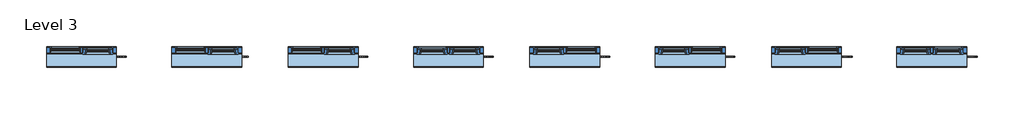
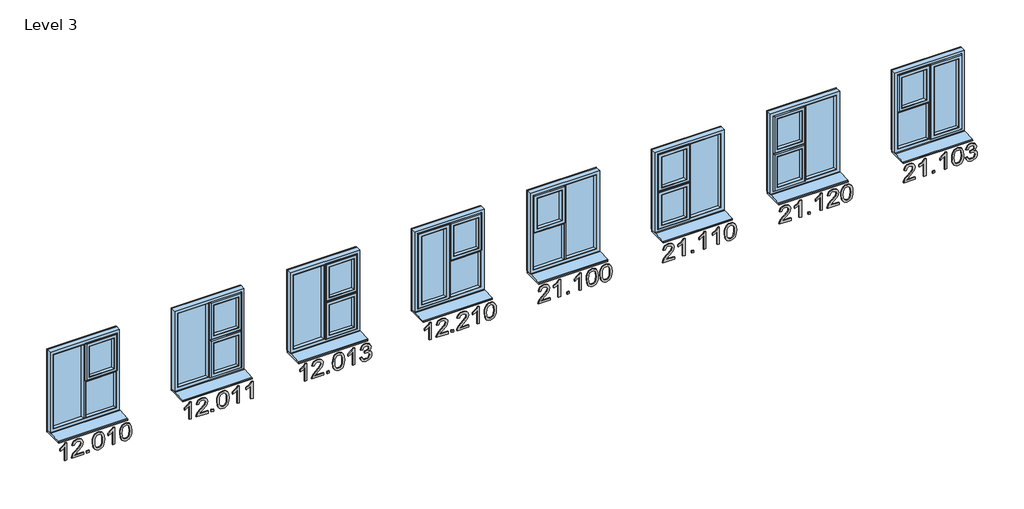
# One storey: 8 proxies, 8 windows.
"""IFC4 building model written with IfcOpenShell, lengths in millimetres."""

from ifc_helpers import new_model, si_unit, frame, origin, place, context, project, spatial, polyline, outline, extrude, transform, mapped, element, save
from components import standard_076794af, standard_4b04ff4b, standard_4289d727, standard_a808f366, standard_dbfec9ef, standard_0d5434f7

model = new_model("IFC4")

# Units and contexts
model_context = context("Model", 3, world=origin())
ifc_project = project(units=[si_unit("LENGTHUNIT", "METRE", prefix="MILLI")], contexts=[model_context])

# Site, building, storey
site = spatial("IfcSite", under=ifc_project)
building = spatial("IfcBuilding", under=site)
storey = spatial("IfcBuildingStorey", under=building, Name="Level 3", Elevation=6000.0)

# Proxies
placement = place(None, origin())
element("IfcBuildingElementProxy", 1, Name="200mm Arial", ObjectType="200mm Arial", at=placement, inside=storey, context=model_context, shape_type="SweptSolid", body=[
    extrude(outline(polyline([(6285.8207785, -163207.777074), (6486.7333988, -163207.777074), (6486.7333988, -163223.9638818), (6473.5754861, -163232.8359693), (6460.0006405, -163246.3065817), (6436.5052437, -163283.1193066), (6412.7645923, -163283.1193066), (6425.4442584, -163256.6808539), (6442.3913556, -163232.8911516), (6285.8207785, -163232.8911516), (6285.8207785, -163207.777074)])), frame((0.0, 24202.6264647, 0.0), z_axis=(0.0, 1.0, 0.0), x_axis=(0.0, 0.0, 1.0)), (0.0, 0.0, 1.0), 10.0),
    extrude(outline(polyline([(6310.934856, -163019.4214925), (6310.934856, -163118.0629181), (6323.712624, -163106.7321527), (6347.8702083, -163077.8411533), (6382.2794376, -163041.8622942), (6406.9030058, -163027.0243871), (6430.7172337, -163022.5607522), (6452.6184751, -163026.6994246), (6470.6446929, -163039.115442), (6482.7112223, -163058.6315818), (6486.7333988, -163084.0706218), (6483.1158925, -163109.3257208), (6472.2633736, -163128.8786488), (6454.5191987, -163142.0426929), (6430.2267243, -163148.1311399), (6427.0874646, -163123.0170623), (6441.5207016, -163120.3008669), (6452.4467968, -163112.4465863), (6459.3261901, -163100.2758237), (6461.6193212, -163084.610182), (6459.2710078, -163069.6925671), (6452.2260676, -163057.9019492), (6441.7720876, -163050.2316096), (6429.1966547, -163047.6748297), (6415.168088, -163050.3848938), (6400.7471138, -163058.5150859), (6358.9066682, -163101.8761104), (6329.7949396, -163133.3177582), (6303.1357577, -163148.5725983), (6285.8207785, -163151.2703996), (6285.8207785, -163019.4214925), (6310.934856, -163019.4214925)])), frame((0.0, 24202.6264647, 0.0), z_axis=(0.0, 1.0, 0.0), x_axis=(0.0, 0.0, 1.0)), (0.0, 0.0, 1.0), 10.0),
    extrude(outline(polyline([(-162956.6362987, 24202.6264647), (-162981.7503762, 24202.6264647), (-162981.7503762, 24212.6264647), (-162956.6362987, 24212.6264647), (-162956.6362987, 24202.6264647)])), frame((0.0, 0.0, 6285.8207785), z_axis=(0.0, 0.0, 1.0), x_axis=(1.0, 0.0, 0.0)), (0.0, 0.0, 1.0), 25.1140775),
    extrude(outline(polyline([(6384.6584079, -162915.8259227), (6335.7914162, -162910.8227275), (6316.9405296, -162904.5687336), (6301.8113825, -162895.8131421), (6287.4639847, -162875.9965653), (6282.6815188, -162849.9014691), (6285.4345024, -162829.6005144), (6293.6934532, -162813.1377951), (6307.5503417, -162800.4029467), (6327.0971383, -162791.2856046), (6352.6833311, -162785.8041628), (6384.6584079, -162783.9770156), (6431.8699306, -162788.5387523), (6461.5947958, -162800.3109762), (6472.3553441, -162808.9807285), (6480.2586757, -162820.5690114), (6485.114718, -162834.4258999), (6486.7333988, -162849.9014691), (6483.9988093, -162870.0920593), (6475.7950408, -162886.5179904), (6461.9933346, -162899.2712329), (6442.464932, -162908.4437573), (6416.8174256, -162913.9803813), (6384.6584079, -162915.8259227)]), holes=[polyline([(6384.7074588, -162890.7118451), (6423.7029503, -162887.6706873), (6448.1793657, -162878.5472138), (6458.2593324, -162865.9165986), (6461.6193212, -162850.1957747), (6457.8056112, -162833.592034), (6446.3644812, -162820.4709095), (6423.3228055, -162811.9360472), (6384.7074588, -162809.0910931), (6345.2643775, -162812.0341491), (6322.3882488, -162820.863317), (6311.4437594, -162834.0089669), (6307.7955963, -162849.9014691), (6311.4314967, -162865.7939713), (6322.3391979, -162878.9396213), (6345.2030639, -162887.7687892), (6384.7074588, -162890.7118451)])]), frame((0.0, 24202.6264647, 0.0), z_axis=(0.0, 1.0, 0.0), x_axis=(0.0, 0.0, 1.0)), (0.0, 0.0, 1.0), 10.0),
    extrude(outline(polyline([(6285.8207785, -162667.824407), (6486.7333988, -162667.824407), (6486.7333988, -162684.0112148), (6473.5754861, -162692.8833022), (6460.0006405, -162706.3539146), (6436.5052437, -162743.1666396), (6412.7645923, -162743.1666396), (6425.4442584, -162716.7281869), (6442.3913556, -162692.9384845), (6285.8207785, -162692.9384845), (6285.8207785, -162667.824407)])), frame((0.0, 24202.6264647, 0.0), z_axis=(0.0, 1.0, 0.0), x_axis=(0.0, 0.0, 1.0)), (0.0, 0.0, 1.0), 10.0),
    extrude(outline(polyline([(6384.6584079, -162608.1784728), (6335.7914162, -162603.1752777), (6316.9405296, -162596.9212838), (6301.8113825, -162588.1656923), (6287.4639847, -162568.3491155), (6282.6815188, -162542.2540193), (6285.4345024, -162521.9530645), (6293.6934532, -162505.4903452), (6307.5503417, -162492.7554968), (6327.0971383, -162483.6381547), (6352.6833311, -162478.156713), (6384.6584079, -162476.3295658), (6431.8699306, -162480.8913025), (6461.5947958, -162492.6635263), (6472.3553441, -162501.3332787), (6480.2586757, -162512.9215615), (6485.114718, -162526.77845), (6486.7333988, -162542.2540193), (6483.9988093, -162562.4446095), (6475.7950408, -162578.8705405), (6461.9933346, -162591.623783), (6442.464932, -162600.7963075), (6416.8174256, -162606.3329315), (6384.6584079, -162608.1784728)]), holes=[polyline([(6384.7074588, -162583.0643953), (6423.7029503, -162580.0232375), (6448.1793657, -162570.899764), (6458.2593324, -162558.2691488), (6461.6193212, -162542.5483249), (6457.8056112, -162525.9445842), (6446.3644812, -162512.8234597), (6423.3228055, -162504.2885974), (6384.7074588, -162501.4436433), (6345.2643775, -162504.3866993), (6322.3882488, -162513.2158671), (6311.4437594, -162526.3615171), (6307.7955963, -162542.2540193), (6311.4314967, -162558.1465215), (6322.3391979, -162571.2921714), (6345.2030639, -162580.1213393), (6384.7074588, -162583.0643953)])]), frame((0.0, 24202.6264647, 0.0), z_axis=(0.0, 1.0, 0.0), x_axis=(0.0, 0.0, 1.0)), (0.0, 0.0, 1.0), 10.0),
])
element("IfcBuildingElementProxy", 2, Name="200mm Arial", ObjectType="200mm Arial", at=placement, inside=storey, context=model_context, shape_type="SweptSolid", body=[
    extrude(outline(polyline([(6285.8207785, -161807.777074), (6486.7333988, -161807.777074), (6486.7333988, -161823.9638818), (6473.5754861, -161832.8359693), (6460.0006405, -161846.3065817), (6436.5052437, -161883.1193066), (6412.7645923, -161883.1193066), (6425.4442584, -161856.6808539), (6442.3913556, -161832.8911516), (6285.8207785, -161832.8911516), (6285.8207785, -161807.777074)])), frame((0.0, 24202.6264647, 0.0), z_axis=(0.0, 1.0, 0.0), x_axis=(0.0, 0.0, 1.0)), (0.0, 0.0, 1.0), 10.0),
    extrude(outline(polyline([(6310.934856, -161619.4214925), (6310.934856, -161718.0629181), (6323.712624, -161706.7321527), (6347.8702083, -161677.8411533), (6382.2794376, -161641.8622942), (6406.9030058, -161627.0243871), (6430.7172337, -161622.5607522), (6452.6184751, -161626.6994246), (6470.6446929, -161639.115442), (6482.7112223, -161658.6315818), (6486.7333988, -161684.0706218), (6483.1158925, -161709.3257208), (6472.2633736, -161728.8786488), (6454.5191987, -161742.0426929), (6430.2267243, -161748.1311399), (6427.0874646, -161723.0170623), (6441.5207016, -161720.3008669), (6452.4467968, -161712.4465863), (6459.3261901, -161700.2758237), (6461.6193212, -161684.610182), (6459.2710078, -161669.6925671), (6452.2260676, -161657.9019492), (6441.7720876, -161650.2316096), (6429.1966547, -161647.6748297), (6415.168088, -161650.3848938), (6400.7471138, -161658.5150859), (6358.9066682, -161701.8761104), (6329.7949396, -161733.3177582), (6303.1357577, -161748.5725983), (6285.8207785, -161751.2703996), (6285.8207785, -161619.4214925), (6310.934856, -161619.4214925)])), frame((0.0, 24202.6264647, 0.0), z_axis=(0.0, 1.0, 0.0), x_axis=(0.0, 0.0, 1.0)), (0.0, 0.0, 1.0), 10.0),
    extrude(outline(polyline([(-161556.6362987, 24202.6264647), (-161581.7503762, 24202.6264647), (-161581.7503762, 24212.6264647), (-161556.6362987, 24212.6264647), (-161556.6362987, 24202.6264647)])), frame((0.0, 0.0, 6285.8207785), z_axis=(0.0, 0.0, 1.0), x_axis=(1.0, 0.0, 0.0)), (0.0, 0.0, 1.0), 25.1140775),
    extrude(outline(polyline([(6384.6584079, -161515.8259227), (6335.7914162, -161510.8227275), (6316.9405296, -161504.5687336), (6301.8113825, -161495.8131421), (6287.4639847, -161475.9965653), (6282.6815188, -161449.9014691), (6285.4345024, -161429.6005144), (6293.6934532, -161413.1377951), (6307.5503417, -161400.4029467), (6327.0971383, -161391.2856046), (6352.6833311, -161385.8041628), (6384.6584079, -161383.9770156), (6431.8699306, -161388.5387523), (6461.5947958, -161400.3109762), (6472.3553441, -161408.9807285), (6480.2586757, -161420.5690114), (6485.114718, -161434.4258999), (6486.7333988, -161449.9014691), (6483.9988093, -161470.0920593), (6475.7950408, -161486.5179904), (6461.9933346, -161499.2712329), (6442.464932, -161508.4437573), (6416.8174256, -161513.9803813), (6384.6584079, -161515.8259227)]), holes=[polyline([(6384.7074588, -161490.7118451), (6423.7029503, -161487.6706873), (6448.1793657, -161478.5472138), (6458.2593324, -161465.9165986), (6461.6193212, -161450.1957747), (6457.8056112, -161433.592034), (6446.3644812, -161420.4709095), (6423.3228055, -161411.9360472), (6384.7074588, -161409.0910931), (6345.2643775, -161412.0341491), (6322.3882488, -161420.863317), (6311.4437594, -161434.0089669), (6307.7955963, -161449.9014691), (6311.4314967, -161465.7939713), (6322.3391979, -161478.9396213), (6345.2030639, -161487.7687892), (6384.7074588, -161490.7118451)])]), frame((0.0, 24202.6264647, 0.0), z_axis=(0.0, 1.0, 0.0), x_axis=(0.0, 0.0, 1.0)), (0.0, 0.0, 1.0), 10.0),
    extrude(outline(polyline([(6285.8207785, -161267.824407), (6486.7333988, -161267.824407), (6486.7333988, -161284.0112148), (6473.5754861, -161292.8833022), (6460.0006405, -161306.3539146), (6436.5052437, -161343.1666396), (6412.7645923, -161343.1666396), (6425.4442584, -161316.7281869), (6442.3913556, -161292.9384845), (6285.8207785, -161292.9384845), (6285.8207785, -161267.824407)])), frame((0.0, 24202.6264647, 0.0), z_axis=(0.0, 1.0, 0.0), x_axis=(0.0, 0.0, 1.0)), (0.0, 0.0, 1.0), 10.0),
    extrude(outline(polyline([(6285.8207785, -161114.0006821), (6486.7333988, -161114.0006821), (6486.7333988, -161130.1874898), (6473.5754861, -161139.0595773), (6460.0006405, -161152.5301897), (6436.5052437, -161189.3429147), (6412.7645923, -161189.3429147), (6425.4442584, -161162.904462), (6442.3913556, -161139.1147596), (6285.8207785, -161139.1147596), (6285.8207785, -161114.0006821)])), frame((0.0, 24202.6264647, 0.0), z_axis=(0.0, 1.0, 0.0), x_axis=(0.0, 0.0, 1.0)), (0.0, 0.0, 1.0), 10.0),
])
element("IfcBuildingElementProxy", 3, Name="200mm Arial", ObjectType="200mm Arial", at=placement, inside=storey, context=model_context, shape_type="SweptSolid", body=[
    extrude(outline(polyline([(6285.8207785, -160507.777074), (6486.7333988, -160507.777074), (6486.7333988, -160523.9638818), (6473.5754861, -160532.8359693), (6460.0006405, -160546.3065817), (6436.5052437, -160583.1193066), (6412.7645923, -160583.1193066), (6425.4442584, -160556.6808539), (6442.3913556, -160532.8911516), (6285.8207785, -160532.8911516), (6285.8207785, -160507.777074)])), frame((0.0, 24202.6264647, 0.0), z_axis=(0.0, 1.0, 0.0), x_axis=(0.0, 0.0, 1.0)), (0.0, 0.0, 1.0), 10.0),
    extrude(outline(polyline([(6310.934856, -160319.4214925), (6310.934856, -160418.0629181), (6323.712624, -160406.7321527), (6347.8702083, -160377.8411533), (6382.2794376, -160341.8622942), (6406.9030058, -160327.0243871), (6430.7172337, -160322.5607522), (6452.6184751, -160326.6994246), (6470.6446929, -160339.115442), (6482.7112223, -160358.6315818), (6486.7333988, -160384.0706218), (6483.1158925, -160409.3257208), (6472.2633736, -160428.8786488), (6454.5191987, -160442.0426929), (6430.2267243, -160448.1311399), (6427.0874646, -160423.0170623), (6441.5207016, -160420.3008669), (6452.4467968, -160412.4465863), (6459.3261901, -160400.2758237), (6461.6193212, -160384.610182), (6459.2710078, -160369.6925671), (6452.2260676, -160357.9019492), (6441.7720876, -160350.2316096), (6429.1966547, -160347.6748297), (6415.168088, -160350.3848938), (6400.7471138, -160358.5150859), (6358.9066682, -160401.8761104), (6329.7949396, -160433.3177582), (6303.1357577, -160448.5725983), (6285.8207785, -160451.2703996), (6285.8207785, -160319.4214925), (6310.934856, -160319.4214925)])), frame((0.0, 24202.6264647, 0.0), z_axis=(0.0, 1.0, 0.0), x_axis=(0.0, 0.0, 1.0)), (0.0, 0.0, 1.0), 10.0),
    extrude(outline(polyline([(-160256.6362987, 24202.6264647), (-160281.7503762, 24202.6264647), (-160281.7503762, 24212.6264647), (-160256.6362987, 24212.6264647), (-160256.6362987, 24202.6264647)])), frame((0.0, 0.0, 6285.8207785), z_axis=(0.0, 0.0, 1.0), x_axis=(1.0, 0.0, 0.0)), (0.0, 0.0, 1.0), 25.1140775),
    extrude(outline(polyline([(6384.6584079, -160215.8259227), (6335.7914162, -160210.8227275), (6316.9405296, -160204.5687336), (6301.8113825, -160195.8131421), (6287.4639847, -160175.9965653), (6282.6815188, -160149.9014691), (6285.4345024, -160129.6005144), (6293.6934532, -160113.1377951), (6307.5503417, -160100.4029467), (6327.0971383, -160091.2856046), (6352.6833311, -160085.8041628), (6384.6584079, -160083.9770156), (6431.8699306, -160088.5387523), (6461.5947958, -160100.3109762), (6472.3553441, -160108.9807285), (6480.2586757, -160120.5690114), (6485.114718, -160134.4258999), (6486.7333988, -160149.9014691), (6483.9988093, -160170.0920593), (6475.7950408, -160186.5179904), (6461.9933346, -160199.2712329), (6442.464932, -160208.4437573), (6416.8174256, -160213.9803813), (6384.6584079, -160215.8259227)]), holes=[polyline([(6384.7074588, -160190.7118451), (6423.7029503, -160187.6706873), (6448.1793657, -160178.5472138), (6458.2593324, -160165.9165986), (6461.6193212, -160150.1957747), (6457.8056112, -160133.592034), (6446.3644812, -160120.4709095), (6423.3228055, -160111.9360472), (6384.7074588, -160109.0910931), (6345.2643775, -160112.0341491), (6322.3882488, -160120.863317), (6311.4437594, -160134.0089669), (6307.7955963, -160149.9014691), (6311.4314967, -160165.7939713), (6322.3391979, -160178.9396213), (6345.2030639, -160187.7687892), (6384.7074588, -160190.7118451)])]), frame((0.0, 24202.6264647, 0.0), z_axis=(0.0, 1.0, 0.0), x_axis=(0.0, 0.0, 1.0)), (0.0, 0.0, 1.0), 10.0),
    extrude(outline(polyline([(6285.8207785, -159967.824407), (6486.7333988, -159967.824407), (6486.7333988, -159984.0112148), (6473.5754861, -159992.8833022), (6460.0006405, -160006.3539146), (6436.5052437, -160043.1666396), (6412.7645923, -160043.1666396), (6425.4442584, -160016.7281869), (6442.3913556, -159992.9384845), (6285.8207785, -159992.9384845), (6285.8207785, -159967.824407)])), frame((0.0, 24202.6264647, 0.0), z_axis=(0.0, 1.0, 0.0), x_axis=(0.0, 0.0, 1.0)), (0.0, 0.0, 1.0), 10.0),
    extrude(outline(polyline([(6339.1881933, -159908.1784728), (6316.4898741, -159901.9612671), (6298.4268682, -159888.2147432), (6286.6178561, -159868.4472173), (6282.6815188, -159844.1670057), (6287.2923065, -159817.3238828), (6301.1246695, -159795.5575314), (6321.5789084, -159781.1365572), (6346.0553238, -159776.3295658), (6364.0324907, -159778.7330615), (6378.723245, -159785.9435486), (6389.5389757, -159797.5931451), (6395.8910714, -159813.313969), (6403.1383467, -159801.3455414), (6412.5193376, -159792.7125773), (6423.531272, -159787.4886529), (6435.6713779, -159785.7473448), (6448.7005318, -159787.5806234), (6461.0061846, -159793.0804593), (6471.6870252, -159802.0445172), (6479.8417427, -159814.2704622), (6485.0104848, -159828.7711442), (6486.7333988, -159844.5594131), (6483.2385198, -159866.48518), (6472.753883, -159884.4868723), (6455.9171503, -159897.644785), (6433.365984, -159905.0392131), (6430.2267243, -159879.9251356), (6443.9609855, -159875.4737635), (6453.771172, -159867.6133515), (6459.6572839, -159856.8466718), (6461.6193212, -159843.6764963), (6459.675678, -159830.5308464), (6453.8447484, -159820.0339468), (6445.0462374, -159813.1545535), (6434.1998499, -159810.8614224), (6421.1768272, -159814.0252075), (6412.0288283, -159823.516563), (6406.620963, -159836.9687813), (6404.8183412, -159852.0151549), (6405.1126468, -159856.0373314), (6379.9985693, -159858.8332345), (6382.7454215, -159841.2239497), (6380.1763789, -159825.4295494), (6372.4692511, -159812.6763069), (6360.8380487, -159804.2518092), (6346.4967822, -159801.4436433), (6331.389095, -159804.2763347), (6318.9301581, -159812.7744087), (6310.5792368, -159826.0672115), (6307.7955963, -159843.2840889), (6309.8189473, -159857.9564491), (6315.8890002, -159869.2075068), (6326.5453154, -159877.4419321), (6342.3274529, -159883.0643953), (6339.1881933, -159908.1784728)])), frame((0.0, 24202.6264647, 0.0), z_axis=(0.0, 1.0, 0.0), x_axis=(0.0, 0.0, 1.0)), (0.0, 0.0, 1.0), 10.0),
])
element("IfcBuildingElementProxy", 4, Name="200mm Arial", ObjectType="200mm Arial", at=placement, inside=storey, context=model_context, shape_type="SweptSolid", body=[
    extrude(outline(polyline([(6285.8207785, -159107.777074), (6486.7333988, -159107.777074), (6486.7333988, -159123.9638818), (6473.5754861, -159132.8359693), (6460.0006405, -159146.3065817), (6436.5052437, -159183.1193066), (6412.7645923, -159183.1193066), (6425.4442584, -159156.6808539), (6442.3913556, -159132.8911516), (6285.8207785, -159132.8911516), (6285.8207785, -159107.777074)])), frame((0.0, 24202.6264647, 0.0), z_axis=(0.0, 1.0, 0.0), x_axis=(0.0, 0.0, 1.0)), (0.0, 0.0, 1.0), 10.0),
    extrude(outline(polyline([(6310.934856, -158919.4214925), (6310.934856, -159018.0629181), (6323.712624, -159006.7321527), (6347.8702083, -158977.8411533), (6382.2794376, -158941.8622942), (6406.9030058, -158927.0243871), (6430.7172337, -158922.5607522), (6452.6184751, -158926.6994246), (6470.6446929, -158939.115442), (6482.7112223, -158958.6315818), (6486.7333988, -158984.0706218), (6483.1158925, -159009.3257208), (6472.2633736, -159028.8786488), (6454.5191987, -159042.0426929), (6430.2267243, -159048.1311399), (6427.0874646, -159023.0170623), (6441.5207016, -159020.3008669), (6452.4467968, -159012.4465863), (6459.3261901, -159000.2758237), (6461.6193212, -158984.610182), (6459.2710078, -158969.6925671), (6452.2260676, -158957.9019492), (6441.7720876, -158950.2316096), (6429.1966547, -158947.6748297), (6415.168088, -158950.3848938), (6400.7471138, -158958.5150859), (6358.9066682, -159001.8761104), (6329.7949396, -159033.3177582), (6303.1357577, -159048.5725983), (6285.8207785, -159051.2703996), (6285.8207785, -158919.4214925), (6310.934856, -158919.4214925)])), frame((0.0, 24202.6264647, 0.0), z_axis=(0.0, 1.0, 0.0), x_axis=(0.0, 0.0, 1.0)), (0.0, 0.0, 1.0), 10.0),
    extrude(outline(polyline([(-158856.6362987, 24202.6264647), (-158881.7503762, 24202.6264647), (-158881.7503762, 24212.6264647), (-158856.6362987, 24212.6264647), (-158856.6362987, 24202.6264647)])), frame((0.0, 0.0, 6285.8207785), z_axis=(0.0, 0.0, 1.0), x_axis=(1.0, 0.0, 0.0)), (0.0, 0.0, 1.0), 25.1140775),
    extrude(outline(polyline([(6310.934856, -158687.1162753), (6310.934856, -158785.7577009), (6323.712624, -158774.4269355), (6347.8702083, -158745.5359361), (6382.2794376, -158709.557077), (6406.9030058, -158694.7191698), (6430.7172337, -158690.255535), (6452.6184751, -158694.3942074), (6470.6446929, -158706.8102248), (6482.7112223, -158726.3263646), (6486.7333988, -158751.7654046), (6483.1158925, -158777.0205035), (6472.2633736, -158796.5734316), (6454.5191987, -158809.7374756), (6430.2267243, -158815.8259227), (6427.0874646, -158790.7118451), (6441.5207016, -158787.9956497), (6452.4467968, -158780.1413691), (6459.3261901, -158767.9706065), (6461.6193212, -158752.3049648), (6459.2710078, -158737.3873499), (6452.2260676, -158725.596732), (6441.7720876, -158717.9263924), (6429.1966547, -158715.3696125), (6415.168088, -158718.0796765), (6400.7471138, -158726.2098686), (6358.9066682, -158769.5708931), (6329.7949396, -158801.012541), (6303.1357577, -158816.2673811), (6285.8207785, -158818.9651824), (6285.8207785, -158687.1162753), (6310.934856, -158687.1162753)])), frame((0.0, 24202.6264647, 0.0), z_axis=(0.0, 1.0, 0.0), x_axis=(0.0, 0.0, 1.0)), (0.0, 0.0, 1.0), 10.0),
    extrude(outline(polyline([(6285.8207785, -158567.824407), (6486.7333988, -158567.824407), (6486.7333988, -158584.0112148), (6473.5754861, -158592.8833022), (6460.0006405, -158606.3539146), (6436.5052437, -158643.1666396), (6412.7645923, -158643.1666396), (6425.4442584, -158616.7281869), (6442.3913556, -158592.9384845), (6285.8207785, -158592.9384845), (6285.8207785, -158567.824407)])), frame((0.0, 24202.6264647, 0.0), z_axis=(0.0, 1.0, 0.0), x_axis=(0.0, 0.0, 1.0)), (0.0, 0.0, 1.0), 10.0),
    extrude(outline(polyline([(6384.6584079, -158508.1784728), (6335.7914162, -158503.1752777), (6316.9405296, -158496.9212838), (6301.8113825, -158488.1656923), (6287.4639847, -158468.3491155), (6282.6815188, -158442.2540193), (6285.4345024, -158421.9530645), (6293.6934532, -158405.4903452), (6307.5503417, -158392.7554968), (6327.0971383, -158383.6381547), (6352.6833311, -158378.156713), (6384.6584079, -158376.3295658), (6431.8699306, -158380.8913025), (6461.5947958, -158392.6635263), (6472.3553441, -158401.3332787), (6480.2586757, -158412.9215615), (6485.114718, -158426.77845), (6486.7333988, -158442.2540193), (6483.9988093, -158462.4446095), (6475.7950408, -158478.8705405), (6461.9933346, -158491.623783), (6442.464932, -158500.7963075), (6416.8174256, -158506.3329315), (6384.6584079, -158508.1784728)]), holes=[polyline([(6384.7074588, -158483.0643953), (6423.7029503, -158480.0232375), (6448.1793657, -158470.899764), (6458.2593324, -158458.2691488), (6461.6193212, -158442.5483249), (6457.8056112, -158425.9445842), (6446.3644812, -158412.8234597), (6423.3228055, -158404.2885974), (6384.7074588, -158401.4436433), (6345.2643775, -158404.3866993), (6322.3882488, -158413.2158671), (6311.4437594, -158426.3615171), (6307.7955963, -158442.2540193), (6311.4314967, -158458.1465215), (6322.3391979, -158471.2921714), (6345.2030639, -158480.1213393), (6384.7074588, -158483.0643953)])]), frame((0.0, 24202.6264647, 0.0), z_axis=(0.0, 1.0, 0.0), x_axis=(0.0, 0.0, 1.0)), (0.0, 0.0, 1.0), 10.0),
])
element("IfcBuildingElementProxy", 5, Name="200mm Arial", ObjectType="200mm Arial", at=placement, inside=storey, context=model_context, shape_type="SweptSolid", body=[
    extrude(outline(polyline([(6310.934856, -157773.2452174), (6310.934856, -157871.8866431), (6323.712624, -157860.5558776), (6347.8702083, -157831.6648783), (6382.2794376, -157795.6860191), (6406.9030058, -157780.848112), (6430.7172337, -157776.3844771), (6452.6184751, -157780.5231496), (6470.6446929, -157792.9391669), (6482.7112223, -157812.4553067), (6486.7333988, -157837.8943467), (6483.1158925, -157863.1494457), (6472.2633736, -157882.7023737), (6454.5191987, -157895.8664178), (6430.2267243, -157901.9548648), (6427.0874646, -157876.8407873), (6441.5207016, -157874.1245919), (6452.4467968, -157866.2703113), (6459.3261901, -157854.0995486), (6461.6193212, -157838.433907), (6459.2710078, -157823.5162921), (6452.2260676, -157811.7256741), (6441.7720876, -157804.0553345), (6429.1966547, -157801.4985546), (6415.168088, -157804.2086187), (6400.7471138, -157812.3388108), (6358.9066682, -157855.6998353), (6329.7949396, -157887.1414831), (6303.1357577, -157902.3963232), (6285.8207785, -157905.0941245), (6285.8207785, -157773.2452174), (6310.934856, -157773.2452174)])), frame((0.0, 24202.6264647, 0.0), z_axis=(0.0, 1.0, 0.0), x_axis=(0.0, 0.0, 1.0)), (0.0, 0.0, 1.0), 10.0),
    extrude(outline(polyline([(6285.8207785, -157653.9533491), (6486.7333988, -157653.9533491), (6486.7333988, -157670.1401569), (6473.5754861, -157679.0122444), (6460.0006405, -157692.4828567), (6436.5052437, -157729.2955817), (6412.7645923, -157729.2955817), (6425.4442584, -157702.857129), (6442.3913556, -157679.0674267), (6285.8207785, -157679.0674267), (6285.8207785, -157653.9533491)])), frame((0.0, 24202.6264647, 0.0), z_axis=(0.0, 1.0, 0.0), x_axis=(0.0, 0.0, 1.0)), (0.0, 0.0, 1.0), 10.0),
    extrude(outline(polyline([(-157556.6362987, 24202.6264647), (-157581.7503762, 24202.6264647), (-157581.7503762, 24212.6264647), (-157556.6362987, 24212.6264647), (-157556.6362987, 24202.6264647)])), frame((0.0, 0.0, 6285.8207785), z_axis=(0.0, 0.0, 1.0), x_axis=(1.0, 0.0, 0.0)), (0.0, 0.0, 1.0), 25.1140775),
    extrude(outline(polyline([(6285.8207785, -157421.6481319), (6486.7333988, -157421.6481319), (6486.7333988, -157437.8349397), (6473.5754861, -157446.7070271), (6460.0006405, -157460.1776395), (6436.5052437, -157496.9903645), (6412.7645923, -157496.9903645), (6425.4442584, -157470.5519118), (6442.3913556, -157446.7622094), (6285.8207785, -157446.7622094), (6285.8207785, -157421.6481319)])), frame((0.0, 24202.6264647, 0.0), z_axis=(0.0, 1.0, 0.0), x_axis=(0.0, 0.0, 1.0)), (0.0, 0.0, 1.0), 10.0),
    extrude(outline(polyline([(6384.6584079, -157362.0021977), (6335.7914162, -157356.9990026), (6316.9405296, -157350.7450087), (6301.8113825, -157341.9894172), (6287.4639847, -157322.1728404), (6282.6815188, -157296.0777442), (6285.4345024, -157275.7767894), (6293.6934532, -157259.3140702), (6307.5503417, -157246.5792218), (6327.0971383, -157237.4618796), (6352.6833311, -157231.9804379), (6384.6584079, -157230.1532907), (6431.8699306, -157234.7150274), (6461.5947958, -157246.4872513), (6472.3553441, -157255.1570036), (6480.2586757, -157266.7452865), (6485.114718, -157280.6021749), (6486.7333988, -157296.0777442), (6483.9988093, -157316.2683344), (6475.7950408, -157332.6942655), (6461.9933346, -157345.447508), (6442.464932, -157354.6200324), (6416.8174256, -157360.1566564), (6384.6584079, -157362.0021977)]), holes=[polyline([(6384.7074588, -157336.8881202), (6423.7029503, -157333.8469624), (6448.1793657, -157324.7234889), (6458.2593324, -157312.0928737), (6461.6193212, -157296.3720498), (6457.8056112, -157279.7683091), (6446.3644812, -157266.6471846), (6423.3228055, -157258.1123223), (6384.7074588, -157255.2673682), (6345.2643775, -157258.2104242), (6322.3882488, -157267.0395921), (6311.4437594, -157280.185242), (6307.7955963, -157296.0777442), (6311.4314967, -157311.9702464), (6322.3391979, -157325.1158964), (6345.2030639, -157333.9450642), (6384.7074588, -157336.8881202)])]), frame((0.0, 24202.6264647, 0.0), z_axis=(0.0, 1.0, 0.0), x_axis=(0.0, 0.0, 1.0)), (0.0, 0.0, 1.0), 10.0),
    extrude(outline(polyline([(6384.6584079, -157208.1784728), (6335.7914162, -157203.1752777), (6316.9405296, -157196.9212838), (6301.8113825, -157188.1656923), (6287.4639847, -157168.3491155), (6282.6815188, -157142.2540193), (6285.4345024, -157121.9530645), (6293.6934532, -157105.4903452), (6307.5503417, -157092.7554968), (6327.0971383, -157083.6381547), (6352.6833311, -157078.156713), (6384.6584079, -157076.3295658), (6431.8699306, -157080.8913025), (6461.5947958, -157092.6635263), (6472.3553441, -157101.3332787), (6480.2586757, -157112.9215615), (6485.114718, -157126.77845), (6486.7333988, -157142.2540193), (6483.9988093, -157162.4446095), (6475.7950408, -157178.8705405), (6461.9933346, -157191.623783), (6442.464932, -157200.7963075), (6416.8174256, -157206.3329315), (6384.6584079, -157208.1784728)]), holes=[polyline([(6384.7074588, -157183.0643953), (6423.7029503, -157180.0232375), (6448.1793657, -157170.899764), (6458.2593324, -157158.2691488), (6461.6193212, -157142.5483249), (6457.8056112, -157125.9445842), (6446.3644812, -157112.8234597), (6423.3228055, -157104.2885974), (6384.7074588, -157101.4436433), (6345.2643775, -157104.3866993), (6322.3882488, -157113.2158671), (6311.4437594, -157126.3615171), (6307.7955963, -157142.2540193), (6311.4314967, -157158.1465215), (6322.3391979, -157171.2921714), (6345.2030639, -157180.1213393), (6384.7074588, -157183.0643953)])]), frame((0.0, 24202.6264647, 0.0), z_axis=(0.0, 1.0, 0.0), x_axis=(0.0, 0.0, 1.0)), (0.0, 0.0, 1.0), 10.0),
])
element("IfcBuildingElementProxy", 6, Name="200mm Arial", ObjectType="200mm Arial", at=placement, inside=storey, context=model_context, shape_type="SweptSolid", body=[
    extrude(outline(polyline([(6310.934856, -156373.2452174), (6310.934856, -156471.8866431), (6323.712624, -156460.5558776), (6347.8702083, -156431.6648783), (6382.2794376, -156395.6860191), (6406.9030058, -156380.848112), (6430.7172337, -156376.3844771), (6452.6184751, -156380.5231496), (6470.6446929, -156392.9391669), (6482.7112223, -156412.4553067), (6486.7333988, -156437.8943467), (6483.1158925, -156463.1494457), (6472.2633736, -156482.7023737), (6454.5191987, -156495.8664178), (6430.2267243, -156501.9548648), (6427.0874646, -156476.8407873), (6441.5207016, -156474.1245919), (6452.4467968, -156466.2703113), (6459.3261901, -156454.0995486), (6461.6193212, -156438.433907), (6459.2710078, -156423.5162921), (6452.2260676, -156411.7256741), (6441.7720876, -156404.0553345), (6429.1966547, -156401.4985546), (6415.168088, -156404.2086187), (6400.7471138, -156412.3388108), (6358.9066682, -156455.6998353), (6329.7949396, -156487.1414831), (6303.1357577, -156502.3963232), (6285.8207785, -156505.0941245), (6285.8207785, -156373.2452174), (6310.934856, -156373.2452174)])), frame((0.0, 24202.6264647, 0.0), z_axis=(0.0, 1.0, 0.0), x_axis=(0.0, 0.0, 1.0)), (0.0, 0.0, 1.0), 10.0),
    extrude(outline(polyline([(6285.8207785, -156253.9533491), (6486.7333988, -156253.9533491), (6486.7333988, -156270.1401569), (6473.5754861, -156279.0122444), (6460.0006405, -156292.4828567), (6436.5052437, -156329.2955817), (6412.7645923, -156329.2955817), (6425.4442584, -156302.857129), (6442.3913556, -156279.0674267), (6285.8207785, -156279.0674267), (6285.8207785, -156253.9533491)])), frame((0.0, 24202.6264647, 0.0), z_axis=(0.0, 1.0, 0.0), x_axis=(0.0, 0.0, 1.0)), (0.0, 0.0, 1.0), 10.0),
    extrude(outline(polyline([(-156156.6362987, 24202.6264647), (-156181.7503762, 24202.6264647), (-156181.7503762, 24212.6264647), (-156156.6362987, 24212.6264647), (-156156.6362987, 24202.6264647)])), frame((0.0, 0.0, 6285.8207785), z_axis=(0.0, 0.0, 1.0), x_axis=(1.0, 0.0, 0.0)), (0.0, 0.0, 1.0), 25.1140775),
    extrude(outline(polyline([(6285.8207785, -156021.6481319), (6486.7333988, -156021.6481319), (6486.7333988, -156037.8349397), (6473.5754861, -156046.7070271), (6460.0006405, -156060.1776395), (6436.5052437, -156096.9903645), (6412.7645923, -156096.9903645), (6425.4442584, -156070.5519118), (6442.3913556, -156046.7622094), (6285.8207785, -156046.7622094), (6285.8207785, -156021.6481319)])), frame((0.0, 24202.6264647, 0.0), z_axis=(0.0, 1.0, 0.0), x_axis=(0.0, 0.0, 1.0)), (0.0, 0.0, 1.0), 10.0),
    extrude(outline(polyline([(6285.8207785, -155867.824407), (6486.7333988, -155867.824407), (6486.7333988, -155884.0112148), (6473.5754861, -155892.8833022), (6460.0006405, -155906.3539146), (6436.5052437, -155943.1666396), (6412.7645923, -155943.1666396), (6425.4442584, -155916.7281869), (6442.3913556, -155892.9384845), (6285.8207785, -155892.9384845), (6285.8207785, -155867.824407)])), frame((0.0, 24202.6264647, 0.0), z_axis=(0.0, 1.0, 0.0), x_axis=(0.0, 0.0, 1.0)), (0.0, 0.0, 1.0), 10.0),
    extrude(outline(polyline([(6384.6584079, -155808.1784728), (6335.7914162, -155803.1752777), (6316.9405296, -155796.9212838), (6301.8113825, -155788.1656923), (6287.4639847, -155768.3491155), (6282.6815188, -155742.2540193), (6285.4345024, -155721.9530645), (6293.6934532, -155705.4903452), (6307.5503417, -155692.7554968), (6327.0971383, -155683.6381547), (6352.6833311, -155678.156713), (6384.6584079, -155676.3295658), (6431.8699306, -155680.8913025), (6461.5947958, -155692.6635263), (6472.3553441, -155701.3332787), (6480.2586757, -155712.9215615), (6485.114718, -155726.77845), (6486.7333988, -155742.2540193), (6483.9988093, -155762.4446095), (6475.7950408, -155778.8705405), (6461.9933346, -155791.623783), (6442.464932, -155800.7963075), (6416.8174256, -155806.3329315), (6384.6584079, -155808.1784728)]), holes=[polyline([(6384.7074588, -155783.0643953), (6423.7029503, -155780.0232375), (6448.1793657, -155770.899764), (6458.2593324, -155758.2691488), (6461.6193212, -155742.5483249), (6457.8056112, -155725.9445842), (6446.3644812, -155712.8234597), (6423.3228055, -155704.2885974), (6384.7074588, -155701.4436433), (6345.2643775, -155704.3866993), (6322.3882488, -155713.2158671), (6311.4437594, -155726.3615171), (6307.7955963, -155742.2540193), (6311.4314967, -155758.1465215), (6322.3391979, -155771.2921714), (6345.2030639, -155780.1213393), (6384.7074588, -155783.0643953)])]), frame((0.0, 24202.6264647, 0.0), z_axis=(0.0, 1.0, 0.0), x_axis=(0.0, 0.0, 1.0)), (0.0, 0.0, 1.0), 10.0),
])
element("IfcBuildingElementProxy", 7, Name="200mm Arial", ObjectType="200mm Arial", at=placement, inside=storey, context=model_context, shape_type="SweptSolid", body=[
    extrude(outline(polyline([(6310.934856, -155063.2452174), (6310.934856, -155161.8866431), (6323.712624, -155150.5558776), (6347.8702083, -155121.6648783), (6382.2794376, -155085.6860191), (6406.9030058, -155070.848112), (6430.7172337, -155066.3844771), (6452.6184751, -155070.5231496), (6470.6446929, -155082.9391669), (6482.7112223, -155102.4553067), (6486.7333988, -155127.8943467), (6483.1158925, -155153.1494457), (6472.2633736, -155172.7023737), (6454.5191987, -155185.8664178), (6430.2267243, -155191.9548648), (6427.0874646, -155166.8407873), (6441.5207016, -155164.1245919), (6452.4467968, -155156.2703113), (6459.3261901, -155144.0995486), (6461.6193212, -155128.433907), (6459.2710078, -155113.5162921), (6452.2260676, -155101.7256741), (6441.7720876, -155094.0553345), (6429.1966547, -155091.4985546), (6415.168088, -155094.2086187), (6400.7471138, -155102.3388108), (6358.9066682, -155145.6998353), (6329.7949396, -155177.1414831), (6303.1357577, -155192.3963232), (6285.8207785, -155195.0941245), (6285.8207785, -155063.2452174), (6310.934856, -155063.2452174)])), frame((0.0, 24202.6264647, 0.0), z_axis=(0.0, 1.0, 0.0), x_axis=(0.0, 0.0, 1.0)), (0.0, 0.0, 1.0), 10.0),
    extrude(outline(polyline([(6285.8207785, -154943.9533491), (6486.7333988, -154943.9533491), (6486.7333988, -154960.1401569), (6473.5754861, -154969.0122444), (6460.0006405, -154982.4828567), (6436.5052437, -155019.2955817), (6412.7645923, -155019.2955817), (6425.4442584, -154992.857129), (6442.3913556, -154969.0674267), (6285.8207785, -154969.0674267), (6285.8207785, -154943.9533491)])), frame((0.0, 24202.6264647, 0.0), z_axis=(0.0, 1.0, 0.0), x_axis=(0.0, 0.0, 1.0)), (0.0, 0.0, 1.0), 10.0),
    extrude(outline(polyline([(-154846.6362987, 24202.6264647), (-154871.7503762, 24202.6264647), (-154871.7503762, 24212.6264647), (-154846.6362987, 24212.6264647), (-154846.6362987, 24202.6264647)])), frame((0.0, 0.0, 6285.8207785), z_axis=(0.0, 0.0, 1.0), x_axis=(1.0, 0.0, 0.0)), (0.0, 0.0, 1.0), 25.1140775),
    extrude(outline(polyline([(6285.8207785, -154711.6481319), (6486.7333988, -154711.6481319), (6486.7333988, -154727.8349397), (6473.5754861, -154736.7070271), (6460.0006405, -154750.1776395), (6436.5052437, -154786.9903645), (6412.7645923, -154786.9903645), (6425.4442584, -154760.5519118), (6442.3913556, -154736.7622094), (6285.8207785, -154736.7622094), (6285.8207785, -154711.6481319)])), frame((0.0, 24202.6264647, 0.0), z_axis=(0.0, 1.0, 0.0), x_axis=(0.0, 0.0, 1.0)), (0.0, 0.0, 1.0), 10.0),
    extrude(outline(polyline([(6310.934856, -154523.2925504), (6310.934856, -154621.933976), (6323.712624, -154610.6032106), (6347.8702083, -154581.7122112), (6382.2794376, -154545.7333521), (6406.9030058, -154530.8954449), (6430.7172337, -154526.4318101), (6452.6184751, -154530.5704825), (6470.6446929, -154542.9864998), (6482.7112223, -154562.5026397), (6486.7333988, -154587.9416797), (6483.1158925, -154613.1967786), (6472.2633736, -154632.7497067), (6454.5191987, -154645.9137507), (6430.2267243, -154652.0021977), (6427.0874646, -154626.8881202), (6441.5207016, -154624.1719248), (6452.4467968, -154616.3176442), (6459.3261901, -154604.1468815), (6461.6193212, -154588.4812399), (6459.2710078, -154573.563625), (6452.2260676, -154561.7730071), (6441.7720876, -154554.1026675), (6429.1966547, -154551.5458876), (6415.168088, -154554.2559516), (6400.7471138, -154562.3861437), (6358.9066682, -154605.7471682), (6329.7949396, -154637.1888161), (6303.1357577, -154652.4436561), (6285.8207785, -154655.1414574), (6285.8207785, -154523.2925504), (6310.934856, -154523.2925504)])), frame((0.0, 24202.6264647, 0.0), z_axis=(0.0, 1.0, 0.0), x_axis=(0.0, 0.0, 1.0)), (0.0, 0.0, 1.0), 10.0),
    extrude(outline(polyline([(6384.6584079, -154498.1784728), (6335.7914162, -154493.1752777), (6316.9405296, -154486.9212838), (6301.8113825, -154478.1656923), (6287.4639847, -154458.3491155), (6282.6815188, -154432.2540193), (6285.4345024, -154411.9530645), (6293.6934532, -154395.4903452), (6307.5503417, -154382.7554968), (6327.0971383, -154373.6381547), (6352.6833311, -154368.156713), (6384.6584079, -154366.3295658), (6431.8699306, -154370.8913025), (6461.5947958, -154382.6635263), (6472.3553441, -154391.3332787), (6480.2586757, -154402.9215615), (6485.114718, -154416.77845), (6486.7333988, -154432.2540193), (6483.9988093, -154452.4446095), (6475.7950408, -154468.8705405), (6461.9933346, -154481.623783), (6442.464932, -154490.7963075), (6416.8174256, -154496.3329315), (6384.6584079, -154498.1784728)]), holes=[polyline([(6384.7074588, -154473.0643953), (6423.7029503, -154470.0232375), (6448.1793657, -154460.899764), (6458.2593324, -154448.2691488), (6461.6193212, -154432.5483249), (6457.8056112, -154415.9445842), (6446.3644812, -154402.8234597), (6423.3228055, -154394.2885974), (6384.7074588, -154391.4436433), (6345.2643775, -154394.3866993), (6322.3882488, -154403.2158671), (6311.4437594, -154416.3615171), (6307.7955963, -154432.2540193), (6311.4314967, -154448.1465215), (6322.3391979, -154461.2921714), (6345.2030639, -154470.1213393), (6384.7074588, -154473.0643953)])]), frame((0.0, 24202.6264647, 0.0), z_axis=(0.0, 1.0, 0.0), x_axis=(0.0, 0.0, 1.0)), (0.0, 0.0, 1.0), 10.0),
])
element("IfcBuildingElementProxy", 8, Name="200mm Arial", ObjectType="200mm Arial", at=placement, inside=storey, context=model_context, shape_type="SweptSolid", body=[
    extrude(outline(polyline([(6310.934856, -153663.2452174), (6310.934856, -153761.8866431), (6323.712624, -153750.5558776), (6347.8702083, -153721.6648783), (6382.2794376, -153685.6860191), (6406.9030058, -153670.848112), (6430.7172337, -153666.3844771), (6452.6184751, -153670.5231496), (6470.6446929, -153682.9391669), (6482.7112223, -153702.4553067), (6486.7333988, -153727.8943467), (6483.1158925, -153753.1494457), (6472.2633736, -153772.7023737), (6454.5191987, -153785.8664178), (6430.2267243, -153791.9548648), (6427.0874646, -153766.8407873), (6441.5207016, -153764.1245919), (6452.4467968, -153756.2703113), (6459.3261901, -153744.0995486), (6461.6193212, -153728.433907), (6459.2710078, -153713.5162921), (6452.2260676, -153701.7256741), (6441.7720876, -153694.0553345), (6429.1966547, -153691.4985546), (6415.168088, -153694.2086187), (6400.7471138, -153702.3388108), (6358.9066682, -153745.6998353), (6329.7949396, -153777.1414831), (6303.1357577, -153792.3963232), (6285.8207785, -153795.0941245), (6285.8207785, -153663.2452174), (6310.934856, -153663.2452174)])), frame((0.0, 24202.6264647, 0.0), z_axis=(0.0, 1.0, 0.0), x_axis=(0.0, 0.0, 1.0)), (0.0, 0.0, 1.0), 10.0),
    extrude(outline(polyline([(6285.8207785, -153543.9533491), (6486.7333988, -153543.9533491), (6486.7333988, -153560.1401569), (6473.5754861, -153569.0122444), (6460.0006405, -153582.4828567), (6436.5052437, -153619.2955817), (6412.7645923, -153619.2955817), (6425.4442584, -153592.857129), (6442.3913556, -153569.0674267), (6285.8207785, -153569.0674267), (6285.8207785, -153543.9533491)])), frame((0.0, 24202.6264647, 0.0), z_axis=(0.0, 1.0, 0.0), x_axis=(0.0, 0.0, 1.0)), (0.0, 0.0, 1.0), 10.0),
    extrude(outline(polyline([(-153446.6362987, 24202.6264647), (-153471.7503762, 24202.6264647), (-153471.7503762, 24212.6264647), (-153446.6362987, 24212.6264647), (-153446.6362987, 24202.6264647)])), frame((0.0, 0.0, 6285.8207785), z_axis=(0.0, 0.0, 1.0), x_axis=(1.0, 0.0, 0.0)), (0.0, 0.0, 1.0), 25.1140775),
    extrude(outline(polyline([(6285.8207785, -153311.6481319), (6486.7333988, -153311.6481319), (6486.7333988, -153327.8349397), (6473.5754861, -153336.7070271), (6460.0006405, -153350.1776395), (6436.5052437, -153386.9903645), (6412.7645923, -153386.9903645), (6425.4442584, -153360.5519118), (6442.3913556, -153336.7622094), (6285.8207785, -153336.7622094), (6285.8207785, -153311.6481319)])), frame((0.0, 24202.6264647, 0.0), z_axis=(0.0, 1.0, 0.0), x_axis=(0.0, 0.0, 1.0)), (0.0, 0.0, 1.0), 10.0),
    extrude(outline(polyline([(6384.6584079, -153252.0021977), (6335.7914162, -153246.9990026), (6316.9405296, -153240.7450087), (6301.8113825, -153231.9894172), (6287.4639847, -153212.1728404), (6282.6815188, -153186.0777442), (6285.4345024, -153165.7767894), (6293.6934532, -153149.3140702), (6307.5503417, -153136.5792218), (6327.0971383, -153127.4618796), (6352.6833311, -153121.9804379), (6384.6584079, -153120.1532907), (6431.8699306, -153124.7150274), (6461.5947958, -153136.4872513), (6472.3553441, -153145.1570036), (6480.2586757, -153156.7452865), (6485.114718, -153170.6021749), (6486.7333988, -153186.0777442), (6483.9988093, -153206.2683344), (6475.7950408, -153222.6942655), (6461.9933346, -153235.447508), (6442.464932, -153244.6200324), (6416.8174256, -153250.1566564), (6384.6584079, -153252.0021977)]), holes=[polyline([(6384.7074588, -153226.8881202), (6423.7029503, -153223.8469624), (6448.1793657, -153214.7234889), (6458.2593324, -153202.0928737), (6461.6193212, -153186.3720498), (6457.8056112, -153169.7683091), (6446.3644812, -153156.6471846), (6423.3228055, -153148.1123223), (6384.7074588, -153145.2673682), (6345.2643775, -153148.2104242), (6322.3882488, -153157.0395921), (6311.4437594, -153170.185242), (6307.7955963, -153186.0777442), (6311.4314967, -153201.9702464), (6322.3391979, -153215.1158964), (6345.2030639, -153223.9450642), (6384.7074588, -153226.8881202)])]), frame((0.0, 24202.6264647, 0.0), z_axis=(0.0, 1.0, 0.0), x_axis=(0.0, 0.0, 1.0)), (0.0, 0.0, 1.0), 10.0),
    extrude(outline(polyline([(6339.1881933, -153098.1784728), (6316.4898741, -153091.9612671), (6298.4268682, -153078.2147432), (6286.6178561, -153058.4472173), (6282.6815188, -153034.1670057), (6287.2923065, -153007.3238828), (6301.1246695, -152985.5575314), (6321.5789084, -152971.1365572), (6346.0553238, -152966.3295658), (6364.0324907, -152968.7330615), (6378.723245, -152975.9435486), (6389.5389757, -152987.5931451), (6395.8910714, -153003.313969), (6403.1383467, -152991.3455414), (6412.5193376, -152982.7125773), (6423.531272, -152977.4886529), (6435.6713779, -152975.7473448), (6448.7005318, -152977.5806234), (6461.0061846, -152983.0804593), (6471.6870252, -152992.0445172), (6479.8417427, -153004.2704622), (6485.0104848, -153018.7711442), (6486.7333988, -153034.5594131), (6483.2385198, -153056.48518), (6472.753883, -153074.4868723), (6455.9171503, -153087.644785), (6433.365984, -153095.0392131), (6430.2267243, -153069.9251356), (6443.9609855, -153065.4737635), (6453.771172, -153057.6133515), (6459.6572839, -153046.8466718), (6461.6193212, -153033.6764963), (6459.675678, -153020.5308464), (6453.8447484, -153010.0339468), (6445.0462374, -153003.1545535), (6434.1998499, -153000.8614224), (6421.1768272, -153004.0252075), (6412.0288283, -153013.516563), (6406.620963, -153026.9687813), (6404.8183412, -153042.0151549), (6405.1126468, -153046.0373314), (6379.9985693, -153048.8332345), (6382.7454215, -153031.2239497), (6380.1763789, -153015.4295494), (6372.4692511, -153002.6763069), (6360.8380487, -152994.2518092), (6346.4967822, -152991.4436433), (6331.389095, -152994.2763347), (6318.9301581, -153002.7744087), (6310.5792368, -153016.0672115), (6307.7955963, -153033.2840889), (6309.8189473, -153047.9564491), (6315.8890002, -153059.2075068), (6326.5453154, -153067.4419321), (6342.3274529, -153073.0643953), (6339.1881933, -153098.1784728)])), frame((0.0, 24202.6264647, 0.0), z_axis=(0.0, 1.0, 0.0), x_axis=(0.0, 0.0, 1.0)), (0.0, 0.0, 1.0), 10.0),
])

# Windows
standard_shape = standard_076794af(model_context)
element("IfcWindow", 9, ObjectType="SMARTS_Alitherm600 : Standard", at=placement, inside=storey, context=model_context, shape_type="MappedRepresentation", body=[
    mapped(standard_shape, transform((-157576.7668676, 24355.9063079, 6000.0), x_axis=(-1.0, 0.0, 0.0), y_axis=(0.0, -1.0, 0.0), z_axis=(0.0, 0.0, 1.0))),
])
standard_2_shape = standard_4b04ff4b(model_context)
element("IfcWindow", 10, ObjectType="SMARTS_Alitherm600 : Standard", at=placement, inside=storey, context=model_context, shape_type="MappedRepresentation", body=[
    mapped(standard_2_shape, transform((-156176.7668676, 24355.9063079, 6000.0), x_axis=(-1.0, 0.0, 0.0), y_axis=(0.0, -1.0, 0.0), z_axis=(0.0, 0.0, 1.0))),
])
element("IfcWindow", 11, ObjectType="SMARTS_Alitherm600 : Standard", at=placement, inside=storey, context=model_context, shape_type="MappedRepresentation", body=[
    mapped(standard_2_shape, transform((-154876.7668676, 24355.9063079, 6000.0), x_axis=(-1.0, 0.0, 0.0), y_axis=(0.0, -1.0, 0.0), z_axis=(0.0, 0.0, 1.0))),
])
standard_3_shape = standard_4289d727(model_context)
element("IfcWindow", 12, ObjectType="SMARTS_Alitherm600 : Standard", at=placement, inside=storey, context=model_context, shape_type="MappedRepresentation", body=[
    mapped(standard_3_shape, transform((-153476.7668676, 24355.9063079, 6000.0), x_axis=(-1.0, 0.0, 0.0), y_axis=(0.0, -1.0, 0.0), z_axis=(0.0, 0.0, 1.0))),
])
standard_4_shape = standard_a808f366(model_context)
element("IfcWindow", 13, ObjectType="SMARTS_Alitherm600 : Standard", at=placement, inside=storey, context=model_context, shape_type="MappedRepresentation", body=[
    mapped(standard_4_shape, transform((-162976.7668676, 24355.9063079, 6000.0), x_axis=(-1.0, 0.0, 0.0), y_axis=(0.0, -1.0, 0.0), z_axis=(0.0, 0.0, 1.0))),
])
standard_5_shape = standard_dbfec9ef(model_context)
element("IfcWindow", 14, ObjectType="SMARTS_Alitherm600 : Standard", at=placement, inside=storey, context=model_context, shape_type="MappedRepresentation", body=[
    mapped(standard_5_shape, transform((-161576.7668676, 24355.9063079, 6000.0), x_axis=(-1.0, 0.0, 0.0), y_axis=(0.0, -1.0, 0.0), z_axis=(0.0, 0.0, 1.0))),
])
element("IfcWindow", 15, ObjectType="SMARTS_Alitherm600 : Standard", at=placement, inside=storey, context=model_context, shape_type="MappedRepresentation", body=[
    mapped(standard_5_shape, transform((-160276.7668676, 24355.9063079, 6000.0), x_axis=(-1.0, 0.0, 0.0), y_axis=(0.0, -1.0, 0.0), z_axis=(0.0, 0.0, 1.0))),
])
standard_6_shape = standard_0d5434f7(model_context)
element("IfcWindow", 16, ObjectType="SMARTS_Alitherm600 : Standard", at=placement, inside=storey, context=model_context, shape_type="MappedRepresentation", body=[
    mapped(standard_6_shape, transform((-158876.7668676, 24355.9063079, 6000.0), x_axis=(-1.0, 0.0, 0.0), y_axis=(0.0, -1.0, 0.0), z_axis=(0.0, 0.0, 1.0))),
])

save(model, "model.ifc")
